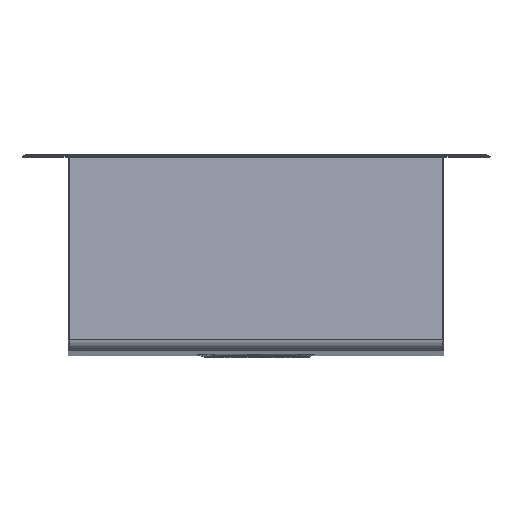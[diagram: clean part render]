
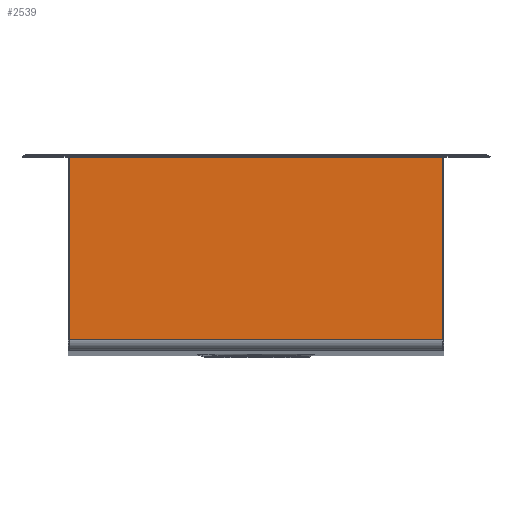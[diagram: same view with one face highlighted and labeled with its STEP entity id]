
A CAD part, front view. The second image highlights one B-rep face of the part: STEP entity #2539.
In plain terms, the highlighted planar face has unit normal (0, -1, 0).
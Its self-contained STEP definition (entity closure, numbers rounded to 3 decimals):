
#2256=CARTESIAN_POINT('Vertex',(400.,-42.623,-63.081)) ;
#2287=CARTESIAN_POINT('Vertex',(0.,-42.623,-63.081)) ;
#2314=CARTESIAN_POINT('Line Origine',(200.,-42.623,-63.081)) ;
#2464=CARTESIAN_POINT('Vertex',(400.,-42.623,132.826)) ;
#2467=CARTESIAN_POINT('Line Origine',(400.,-42.623,34.873)) ;
#2481=CARTESIAN_POINT('Line Origine',(0.,-42.623,34.873)) ;
#2485=CARTESIAN_POINT('Vertex',(0.,-42.623,132.826)) ;
#2523=CARTESIAN_POINT('Axis2P3D Location',(0.,-42.623,134.126)) ;
#2528=CARTESIAN_POINT('Line Origine',(200.,-42.623,132.826)) ;
#2315=DIRECTION('Vector Direction',(1.,0.,0.)) ;
#2468=DIRECTION('Vector Direction',(0.,0.,-1.)) ;
#2482=DIRECTION('Vector Direction',(0.,0.,1.)) ;
#2524=DIRECTION('Axis2P3D Direction',(0.,-1.,0.)) ;
#2525=DIRECTION('Axis2P3D XDirection',(0.,0.,-1.)) ;
#2529=DIRECTION('Vector Direction',(1.,0.,0.)) ;
#2526=AXIS2_PLACEMENT_3D('Plane Axis2P3D',#2523,#2524,#2525) ;
#2534=ORIENTED_EDGE('',*,*,#2487,.T.) ;
#2535=ORIENTED_EDGE('',*,*,#2318,.F.) ;
#2536=ORIENTED_EDGE('',*,*,#2471,.T.) ;
#2537=ORIENTED_EDGE('',*,*,#2532,.F.) ;
#2316=VECTOR('Line Direction',#2315,1.) ;
#2469=VECTOR('Line Direction',#2468,1.) ;
#2483=VECTOR('Line Direction',#2482,1.) ;
#2530=VECTOR('Line Direction',#2529,1.) ;
#2539=ADVANCED_FACE('Fondo',(#2538),#2527,.T.) ;
#2318=EDGE_CURVE('',#2257,#2288,#2317,.F.) ;
#2471=EDGE_CURVE('',#2257,#2465,#2470,.F.) ;
#2487=EDGE_CURVE('',#2486,#2288,#2484,.F.) ;
#2532=EDGE_CURVE('',#2486,#2465,#2531,.T.) ;
#2533=EDGE_LOOP('',(#2534,#2535,#2536,#2537)) ;
#2538=FACE_OUTER_BOUND('',#2533,.T.) ;
#2317=LINE('Line',#2314,#2316) ;
#2470=LINE('Line',#2467,#2469) ;
#2484=LINE('Line',#2481,#2483) ;
#2531=LINE('Line',#2528,#2530) ;
#2527=PLANE('',#2526) ;
#2257=VERTEX_POINT('',#2256) ;
#2288=VERTEX_POINT('',#2287) ;
#2465=VERTEX_POINT('',#2464) ;
#2486=VERTEX_POINT('',#2485) ;
